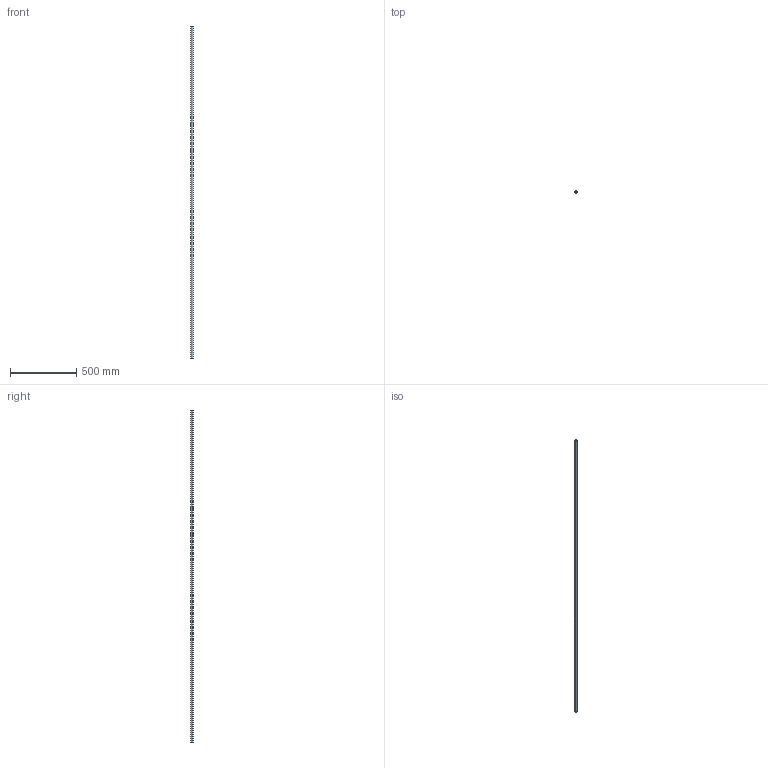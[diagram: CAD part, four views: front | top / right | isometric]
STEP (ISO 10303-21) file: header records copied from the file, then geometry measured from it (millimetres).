
FILE_DESCRIPTION (( 'STEP AP214' ), '1' );
FILE_NAME ('FGGR 3X18.step', '2017-04-05T07:37:24', ( '' ), ( '' ), 'SwSTEP 2.0', 'SolidWorks 2015', '' );
FILE_SCHEMA (( 'AUTOMOTIVE_DESIGN' ));
Length unit declared in the file: millimetre
Products named in the file (1): FGGR 3X18
Bounding box: 18 x 18 x 2500 mm (x, y, z)
Volume: 304341.8 mm3; surface area: 243716.9 mm2
Topology: 1 solids, 1 shells, 6 faces, 12 edges, 8 vertices
Faces by surface type: cylinder 4, plane 2
Entity records: 202 total; most frequent: DIRECTION 34, CARTESIAN_POINT 27, ORIENTED_EDGE 24, AXIS2_PLACEMENT_3D 15, EDGE_CURVE 12, VERTEX_POINT 8, CIRCLE 8, EDGE_LOOP 8
